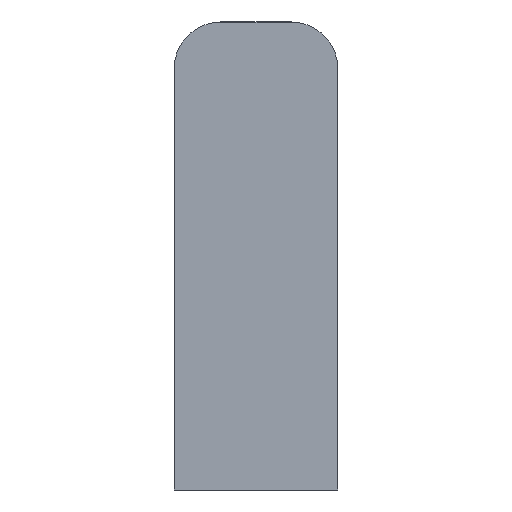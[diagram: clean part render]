
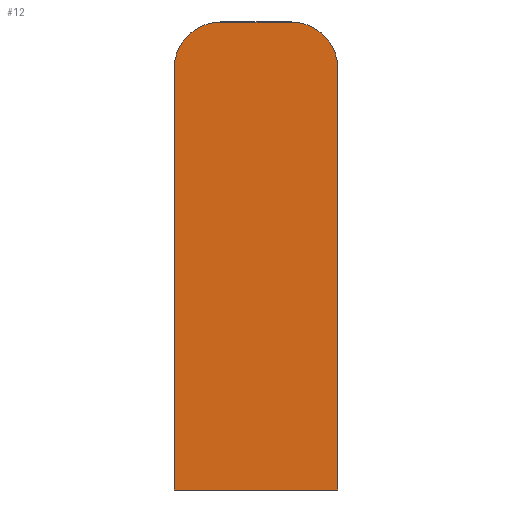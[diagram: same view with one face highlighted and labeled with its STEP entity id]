
A CAD part, front view. The second image highlights one B-rep face of the part: STEP entity #12.
In plain terms, the highlighted planar face has unit normal (0, -1, 0).
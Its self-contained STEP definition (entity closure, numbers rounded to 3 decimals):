
#12 = ADVANCED_FACE ( 'NONE', ( #166 ), #257, .F. ) ;
#31 = ORIENTED_EDGE ( 'NONE', *, *, #406, .T. ) ;
#32 = ORIENTED_EDGE ( 'NONE', *, *, #418, .T. ) ;
#45 = EDGE_LOOP ( 'NONE', ( #32, #31, #80, #60, #95, #90 ) ) ;
#60 = ORIENTED_EDGE ( 'NONE', *, *, #444, .T. ) ;
#80 = ORIENTED_EDGE ( 'NONE', *, *, #424, .T. ) ;
#90 = ORIENTED_EDGE ( 'NONE', *, *, #448, .T. ) ;
#95 = ORIENTED_EDGE ( 'NONE', *, *, #425, .T. ) ;
#106 = CIRCLE ( 'NONE', #461, 3. ) ;
#108 = LINE ( 'NONE', #312, #191 ) ;
#115 = VECTOR ( 'NONE', #326, 1000. ) ;
#119 = LINE ( 'NONE', #323, #120 ) ;
#120 = VECTOR ( 'NONE', #324, 1000. ) ;
#123 = LINE ( 'NONE', #325, #115 ) ;
#146 = LINE ( 'NONE', #355, #152 ) ;
#151 = CIRCLE ( 'NONE', #453, 3. ) ;
#152 = VECTOR ( 'NONE', #356, 1000. ) ;
#166 = FACE_OUTER_BOUND ( 'NONE', #45, .T. ) ;
#191 = VECTOR ( 'NONE', #316, 1000. ) ;
#196 = CARTESIAN_POINT ( 'NONE',  ( -5.25, 0., -16.5 ) ) ;
#197 = CARTESIAN_POINT ( 'NONE',  ( 5.25, 0., 10.5 ) ) ;
#200 = VERTEX_POINT ( 'NONE', #197 ) ;
#205 = VERTEX_POINT ( 'NONE', #282 ) ;
#207 = VERTEX_POINT ( 'NONE', #281 ) ;
#211 = VERTEX_POINT ( 'NONE', #274 ) ;
#212 = VERTEX_POINT ( 'NONE', #196 ) ;
#221 = VERTEX_POINT ( 'NONE', #294 ) ;
#256 = CARTESIAN_POINT ( 'NONE',  ( 0., 0., -1.5 ) ) ;
#257 = PLANE ( 'NONE',  #437 ) ;
#259 = DIRECTION ( 'NONE',  ( 0., 1., 0. ) ) ;
#260 = DIRECTION ( 'NONE',  ( -1., 0., 0. ) ) ;
#274 = CARTESIAN_POINT ( 'NONE',  ( 5.25, 0., -16.5 ) ) ;
#281 = CARTESIAN_POINT ( 'NONE',  ( -5.25, 0., 10.5 ) ) ;
#282 = CARTESIAN_POINT ( 'NONE',  ( 2.25, 0., 13.5 ) ) ;
#294 = CARTESIAN_POINT ( 'NONE',  ( -2.25, 0., 13.5 ) ) ;
#307 = CARTESIAN_POINT ( 'NONE',  ( 2.25, 0., 10.5 ) ) ;
#308 = DIRECTION ( 'NONE',  ( 0., -1., 0. ) ) ;
#309 = DIRECTION ( 'NONE',  ( -1., 0., 0. ) ) ;
#312 = CARTESIAN_POINT ( 'NONE',  ( 5.25, 0., -16.5 ) ) ;
#316 = DIRECTION ( 'NONE',  ( 0., 0., 1. ) ) ;
#323 = CARTESIAN_POINT ( 'NONE',  ( 2.25, 0., 13.5 ) ) ;
#324 = DIRECTION ( 'NONE',  ( -1., 0., 0. ) ) ;
#325 = CARTESIAN_POINT ( 'NONE',  ( -5.25, 0., -16.5 ) ) ;
#326 = DIRECTION ( 'NONE',  ( 0., 0., -1. ) ) ;
#339 = CARTESIAN_POINT ( 'NONE',  ( -2.25, 0., 10.5 ) ) ;
#346 = DIRECTION ( 'NONE',  ( 0., -1., 0. ) ) ;
#347 = DIRECTION ( 'NONE',  ( -1., 0., 0. ) ) ;
#355 = CARTESIAN_POINT ( 'NONE',  ( 5.25, 0., -16.5 ) ) ;
#356 = DIRECTION ( 'NONE',  ( 1., 0., 0. ) ) ;
#406 = EDGE_CURVE ( 'NONE', #200, #205, #106, .T. ) ;
#418 = EDGE_CURVE ( 'NONE', #211, #200, #108, .T. ) ;
#424 = EDGE_CURVE ( 'NONE', #205, #221, #119, .T. ) ;
#425 = EDGE_CURVE ( 'NONE', #207, #212, #123, .T. ) ;
#437 = AXIS2_PLACEMENT_3D ( 'NONE', #256, #259, #260 ) ;
#444 = EDGE_CURVE ( 'NONE', #221, #207, #151, .T. ) ;
#448 = EDGE_CURVE ( 'NONE', #212, #211, #146, .T. ) ;
#453 = AXIS2_PLACEMENT_3D ( 'NONE', #339, #346, #347 ) ;
#461 = AXIS2_PLACEMENT_3D ( 'NONE', #307, #308, #309 ) ;
